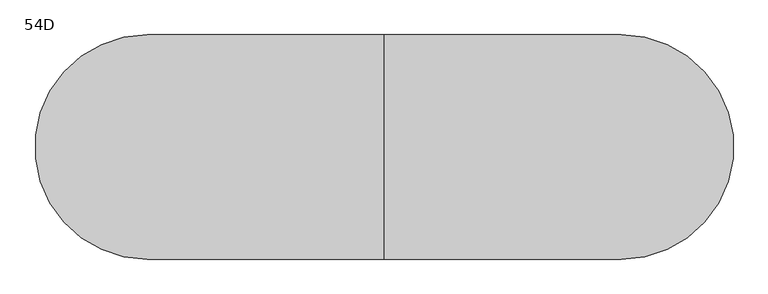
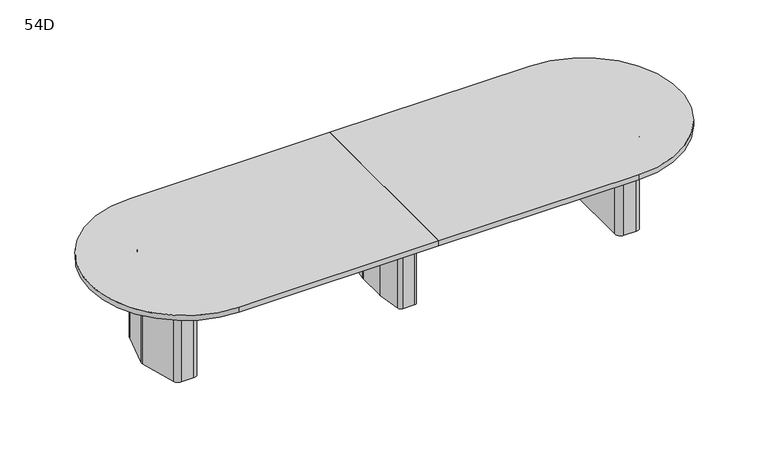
"""IFC4 building model written with IfcOpenShell, lengths in millimetres: furniture geometry, Coalesse_AM_Table_Conference_ETable2_Racetrack_14ft_ThreeBase : 54D."""

from ifc_helpers import new_model, si_unit, point, frame, frame_2d, origin, place, context, project, spatial, polyline, circle_curve, trimmed, segment, composite_curve, outline, extrude, source, transform, mapped, element, save
from ifc_brep_helpers import plane_surface, cylinder_surface, revolved_surface, advanced_brep


def furniture_54d_e3f36c5a(model_context):
    return source(origin(), model_context, "Body", "SolidModel", [
        advanced_brep(
        [(35.71875, 206.375, 3.175), (10.31875, 231.775, 3.175), (-10.31875, 231.775, 3.175), (-35.71875, 206.375, 3.175), (-35.71875, -206.375, 3.175), (-10.31875, -231.775, 3.175), (10.31875, -231.775, 3.175), (35.71875, -206.375, 3.175), (-61.11875, 206.375, 0.0), (-10.31875, 257.175, 0.0), (10.31875, 257.175, 0.0), (61.11875, 206.375, 0.0), (61.11875, -206.375, 0.0), (10.31875, -257.175, 0.0), (-10.31875, -257.175, 0.0), (-61.11875, -206.375, 0.0), (-61.11875, -206.375, 3.175), (-61.11875, 206.375, 3.175), (-10.31875, -257.175, 3.175), (10.31875, -257.175, 3.175), (61.11875, -206.375, 3.175), (61.11875, 206.375, 3.175), (10.31875, 257.175, 3.175), (-10.31875, 257.175, 3.175), (-92.6215974, 106.2976848, 698.5), (-92.86875, 102.7629613, 698.5), (-92.86875, -102.7629613, 698.5), (-92.6215974, -106.2976848, 698.5), (-67.7988375, -282.9347235, 698.5), (-42.6459902, -304.8, 698.5), (42.6459902, -304.8, 698.5), (67.7988375, -282.9347235, 698.5), (92.6215974, -106.2976848, 698.5), (92.86875, -102.7629613, 698.5), (92.86875, 102.7629613, 698.5), (92.6215974, 106.2976848, 698.5), (67.7988375, 282.9347235, 698.5), (42.6459902, 304.8, 698.5), (-42.6459902, 304.8, 698.5), (-67.7988375, 282.9347235, 698.5), (10.31875, 231.775, 698.5), (35.71875, 206.375, 698.5), (35.71875, -206.375, 698.5), (10.31875, -231.775, 698.5), (-10.31875, -231.775, 698.5), (-35.71875, -206.375, 698.5), (-35.71875, 206.375, 698.5), (-10.31875, 231.775, 698.5), (-92.6215974, 106.2976848, 3.175), (-67.7988375, 282.9347235, 3.175), (-42.6459902, 304.8, 3.175), (42.6459902, 304.8, 3.175), (67.7988375, 282.9347235, 3.175), (92.6215974, 106.2976848, 3.175), (92.86875, 102.7629613, 3.175), (92.86875, -102.7629613, 3.175), (92.6215974, -106.2976848, 3.175), (67.7988375, -282.9347235, 3.175), (42.6459902, -304.8, 3.175), (-42.6459902, -304.8, 3.175), (-67.7988375, -282.9347235, 3.175), (-92.6215974, -106.2976848, 3.175), (-92.86875, -102.7629613, 3.175), (-92.86875, 102.7629613, 3.175)],
        [
            (0, 1, circle_curve(frame((10.31875, 206.375, 3.175), z_axis=(0.0, 0.0, 1.0), x_axis=(1.0, 0.0, 0.0)), 25.4)),
            (1, 2),
            (2, 3, circle_curve(frame((-10.31875, 206.375, 3.175), z_axis=(0.0, 0.0, 1.0), x_axis=(1.0, 0.0, 0.0)), 25.4)),
            (3, 4),
            (4, 5, circle_curve(frame((-10.31875, -206.375, 3.175), z_axis=(0.0, 0.0, 1.0), x_axis=(1.0, 0.0, 0.0)), 25.4)),
            (5, 6),
            (6, 7, circle_curve(frame((10.31875, -206.375, 3.175), z_axis=(0.0, 0.0, 1.0), x_axis=(1.0, 0.0, 0.0)), 25.4)),
            (7, 0),
            (8, 9, circle_curve(frame((-10.31875, 206.375, 0.0), z_axis=(0.0, 0.0, -1.0), x_axis=(1.0, 0.0, 0.0)), 50.8)),
            (9, 10),
            (10, 11, circle_curve(frame((10.31875, 206.375, 0.0), z_axis=(0.0, 0.0, -1.0), x_axis=(1.0, 0.0, 0.0)), 50.8)),
            (11, 12),
            (12, 13, circle_curve(frame((10.31875, -206.375, 0.0), z_axis=(0.0, 0.0, -1.0), x_axis=(1.0, 0.0, 0.0)), 50.8)),
            (13, 14),
            (14, 15, circle_curve(frame((-10.31875, -206.375, 0.0), z_axis=(0.0, 0.0, -1.0), x_axis=(1.0, 0.0, 0.0)), 50.8)),
            (15, 8),
            (15, 16),
            (16, 17),
            (17, 8),
            (14, 18),
            (18, 16, circle_curve(frame((-10.31875, -206.375, 3.175), z_axis=(0.0, 0.0, -1.0), x_axis=(1.0, 0.0, 0.0)), 50.8)),
            (13, 19),
            (19, 18),
            (12, 20),
            (20, 19, circle_curve(frame((10.31875, -206.375, 3.175), z_axis=(0.0, 0.0, -1.0), x_axis=(1.0, 0.0, 0.0)), 50.8)),
            (11, 21),
            (21, 20),
            (10, 22),
            (22, 21, circle_curve(frame((10.31875, 206.375, 3.175), z_axis=(0.0, 0.0, -1.0), x_axis=(1.0, 0.0, 0.0)), 50.8)),
            (9, 23),
            (23, 22),
            (17, 23, circle_curve(frame((-10.31875, 206.375, 3.175), z_axis=(0.0, 0.0, -1.0), x_axis=(1.0, 0.0, 0.0)), 50.8)),
            (24, 25, circle_curve(frame((-67.46875, 102.7629613, 698.5), z_axis=(0.0, 0.0, 1.0), x_axis=(1.0, 0.0, 0.0)), 25.4)),
            (25, 26),
            (26, 27, circle_curve(frame((-67.46875, -102.7629613, 698.5), z_axis=(0.0, 0.0, 1.0), x_axis=(1.0, 0.0, 0.0)), 25.4)),
            (27, 28),
            (28, 29, circle_curve(frame((-42.6459902, -279.4, 698.5), z_axis=(0.0, 0.0, 1.0), x_axis=(1.0, 0.0, 0.0)), 25.4)),
            (29, 30),
            (30, 31, circle_curve(frame((42.6459902, -279.4, 698.5), z_axis=(0.0, 0.0, 1.0), x_axis=(1.0, 0.0, 0.0)), 25.4)),
            (31, 32),
            (32, 33, circle_curve(frame((67.46875, -102.7629613, 698.5), z_axis=(0.0, 0.0, 1.0), x_axis=(1.0, 0.0, 0.0)), 25.4)),
            (33, 34),
            (34, 35, circle_curve(frame((67.46875, 102.7629613, 698.5), z_axis=(0.0, 0.0, 1.0), x_axis=(1.0, 0.0, 0.0)), 25.4)),
            (35, 36),
            (36, 37, circle_curve(frame((42.6459902, 279.4, 698.5), z_axis=(0.0, 0.0, 1.0), x_axis=(1.0, 0.0, 0.0)), 25.4)),
            (37, 38),
            (38, 39, circle_curve(frame((-42.6459902, 279.4, 698.5), z_axis=(0.0, 0.0, 1.0), x_axis=(1.0, 0.0, 0.0)), 25.4)),
            (39, 24),
            (40, 41, circle_curve(frame((10.31875, 206.375, 698.5), z_axis=(0.0, 0.0, -1.0), x_axis=(1.0, 0.0, 0.0)), 25.4)),
            (41, 42),
            (42, 43, circle_curve(frame((10.31875, -206.375, 698.5), z_axis=(0.0, 0.0, -1.0), x_axis=(1.0, 0.0, 0.0)), 25.4)),
            (43, 44),
            (44, 45, circle_curve(frame((-10.31875, -206.375, 698.5), z_axis=(0.0, 0.0, -1.0), x_axis=(1.0, 0.0, 0.0)), 25.4)),
            (45, 46),
            (46, 47, circle_curve(frame((-10.31875, 206.375, 698.5), z_axis=(0.0, 0.0, -1.0), x_axis=(1.0, 0.0, 0.0)), 25.4)),
            (47, 40),
            (48, 49),
            (49, 50, circle_curve(frame((-42.6459902, 279.4, 3.175), z_axis=(0.0, 0.0, -1.0), x_axis=(1.0, 0.0, 0.0)), 25.4)),
            (50, 51),
            (51, 52, circle_curve(frame((42.6459902, 279.4, 3.175), z_axis=(0.0, 0.0, -1.0), x_axis=(1.0, 0.0, 0.0)), 25.4)),
            (52, 53),
            (53, 54, circle_curve(frame((67.46875, 102.7629613, 3.175), z_axis=(0.0, 0.0, -1.0), x_axis=(1.0, 0.0, 0.0)), 25.4)),
            (54, 55),
            (55, 56, circle_curve(frame((67.46875, -102.7629613, 3.175), z_axis=(0.0, 0.0, -1.0), x_axis=(1.0, 0.0, 0.0)), 25.4)),
            (56, 57),
            (57, 58, circle_curve(frame((42.6459902, -279.4, 3.175), z_axis=(0.0, 0.0, -1.0), x_axis=(1.0, 0.0, 0.0)), 25.4)),
            (58, 59),
            (59, 60, circle_curve(frame((-42.6459902, -279.4, 3.175), z_axis=(0.0, 0.0, -1.0), x_axis=(1.0, 0.0, 0.0)), 25.4)),
            (60, 61),
            (61, 62, circle_curve(frame((-67.46875, -102.7629613, 3.175), z_axis=(0.0, 0.0, -1.0), x_axis=(1.0, 0.0, 0.0)), 25.4)),
            (62, 63),
            (63, 48, circle_curve(frame((-67.46875, 102.7629613, 3.175), z_axis=(0.0, 0.0, -1.0), x_axis=(1.0, 0.0, 0.0)), 25.4)),
            (24, 48),
            (63, 25),
            (62, 26),
            (61, 27),
            (60, 28),
            (59, 29),
            (58, 30),
            (57, 31),
            (56, 32),
            (55, 33),
            (54, 34),
            (53, 35),
            (52, 36),
            (51, 37),
            (50, 38),
            (49, 39),
            (40, 1),
            (0, 41),
            (7, 42),
            (6, 43),
            (5, 44),
            (4, 45),
            (3, 46),
            (2, 47),
        ],
        [
            plane_surface(frame((-61.11875, -206.375, 3.175), z_axis=(0.0, 0.0, 1.0), x_axis=(0.0, -1.0, 0.0))),
            plane_surface(frame((-61.11875, -206.375, 0.0), z_axis=(0.0, 0.0, -1.0), x_axis=(0.0, 1.0, 0.0))),
            plane_surface(frame((-61.11875, 206.375, 3.175), z_axis=(-1.0, 0.0, 0.0), x_axis=(0.0, 0.0, -1.0))),
            cylinder_surface(frame((-10.31875, -206.375, 0.0), z_axis=(0.0, 0.0, 1.0), x_axis=(1.0, 0.0, 0.0)), 50.8),
            plane_surface(frame((-10.31875, -257.175, 3.175), z_axis=(0.0, -1.0, 0.0), x_axis=(0.0, 0.0, -1.0))),
            cylinder_surface(frame((10.31875, -206.375, 0.0), z_axis=(0.0, 0.0, 1.0), x_axis=(1.0, 0.0, 0.0)), 50.8),
            plane_surface(frame((61.11875, -206.375, 3.175), z_axis=(1.0, 0.0, 0.0), x_axis=(0.0, 0.0, -1.0))),
            cylinder_surface(frame((10.31875, 206.375, 0.0), z_axis=(0.0, 0.0, 1.0), x_axis=(1.0, 0.0, 0.0)), 50.8),
            plane_surface(frame((10.31875, 257.175, 3.175), z_axis=(0.0, 1.0, 0.0), x_axis=(0.0, 0.0, -1.0))),
            cylinder_surface(frame((-10.31875, 206.375, 0.0), z_axis=(0.0, 0.0, 1.0), x_axis=(1.0, 0.0, 0.0)), 50.8),
            plane_surface(frame((-42.06875, 102.7629613, 698.5), z_axis=(0.0, 0.0, 1.0), x_axis=(0.0, 1.0, 0.0))),
            plane_surface(frame((-42.06875, 102.7629613, 3.175), z_axis=(0.0, 0.0, -1.0), x_axis=(0.0, -1.0, 0.0))),
            cylinder_surface(frame((-67.46875, 102.7629613, 3.175), z_axis=(0.0, 0.0, 1.0), x_axis=(1.0, 0.0, 0.0)), 25.4),
            plane_surface(frame((-92.86875, 102.7629613, 698.5), z_axis=(-1.0, 0.0, 0.0), x_axis=(0.0, 0.0, -1.0))),
            cylinder_surface(frame((-67.46875, -102.7629613, 3.175), z_axis=(0.0, 0.0, 1.0), x_axis=(1.0, 0.0, 0.0)), 25.4),
            plane_surface(frame((-92.6215974, -106.2976848, 698.5), z_axis=(-0.9902695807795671, -0.13916234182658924, 0.0), x_axis=(0.0, 0.0, -1.0))),
            cylinder_surface(frame((-42.6459902, -279.4, 3.175), z_axis=(0.0, 0.0, 1.0), x_axis=(1.0, 0.0, 0.0)), 25.4),
            plane_surface(frame((-42.6459902, -304.8, 698.5), z_axis=(0.0, -1.0, 0.0), x_axis=(0.0, 0.0, -1.0))),
            cylinder_surface(frame((42.6459902, -279.4, 3.175), z_axis=(0.0, 0.0, 1.0), x_axis=(1.0, 0.0, 0.0)), 25.4),
            plane_surface(frame((67.7988375, -282.9347235, 698.5), z_axis=(0.9902695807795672, -0.13916234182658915, 0.0), x_axis=(0.0, 0.0, -1.0))),
            cylinder_surface(frame((67.46875, -102.7629613, 3.175), z_axis=(0.0, 0.0, 1.0), x_axis=(1.0, 0.0, 0.0)), 25.4),
            plane_surface(frame((92.86875, -102.7629613, 698.5), z_axis=(1.0, 0.0, 0.0), x_axis=(0.0, 0.0, -1.0))),
            cylinder_surface(frame((67.46875, 102.7629613, 3.175), z_axis=(0.0, 0.0, 1.0), x_axis=(1.0, 0.0, 0.0)), 25.4),
            plane_surface(frame((92.6215974, 106.2976848, 698.5), z_axis=(0.9902695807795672, 0.1391623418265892, 0.0), x_axis=(0.0, 0.0, -1.0))),
            cylinder_surface(frame((42.6459902, 279.4, 3.175), z_axis=(0.0, 0.0, 1.0), x_axis=(1.0, 0.0, 0.0)), 25.4),
            plane_surface(frame((42.6459902, 304.8, 698.5), z_axis=(0.0, 1.0, 0.0), x_axis=(0.0, 0.0, -1.0))),
            cylinder_surface(frame((-42.6459902, 279.4, 3.175), z_axis=(0.0, 0.0, 1.0), x_axis=(1.0, 0.0, 0.0)), 25.4),
            plane_surface(frame((-67.7988375, 282.9347235, 698.5), z_axis=(-0.9902695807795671, 0.13916234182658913, 0.0), x_axis=(0.0, 0.0, -1.0))),
            revolved_surface(polyline([(35.71875, 206.375, 3.175), (35.71875, 206.375, 698.5)]), (10.31875, 206.375, 0.0), (0.0, 0.0, -1.0)),
            plane_surface(frame((35.71875, 206.375, 698.5), z_axis=(-1.0, 0.0, 0.0), x_axis=(0.0, 0.0, -1.0))),
            revolved_surface(polyline([(35.71875, -206.375, 3.175), (35.71875, -206.375, 698.5)]), (10.31875, -206.375, 0.0), (0.0, 0.0, -1.0)),
            plane_surface(frame((10.31875, -231.775, 698.5), z_axis=(0.0, 1.0, 0.0), x_axis=(0.0, 0.0, -1.0))),
            revolved_surface(polyline([(15.081249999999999, -206.375, 3.175), (15.081249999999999, -206.375, 698.5)]), (-10.31875, -206.375, 0.0), (0.0, 0.0, -1.0)),
            plane_surface(frame((-35.71875, -206.375, 698.5), z_axis=(1.0, 0.0, 0.0), x_axis=(0.0, 0.0, -1.0))),
            revolved_surface(polyline([(15.081249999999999, 206.375, 3.175), (15.081249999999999, 206.375, 698.5)]), (-10.31875, 206.375, 0.0), (0.0, 0.0, -1.0)),
            plane_surface(frame((-10.31875, 231.775, 698.5), z_axis=(0.0, -1.0, 0.0), x_axis=(0.0, 0.0, -1.0))),
        ],
        [
            (0, [[1, 2, 3, 4, 5, 6, 7, 8]]),
            (1, [[9, 10, 11, 12, 13, 14, 15, 16]]),
            (2, [[-16, 17, 18, 19]]),
            (3, [[-15, 20, 21, -17]]),
            (4, [[-14, 22, 23, -20]]),
            (5, [[-13, 24, 25, -22]]),
            (6, [[-12, 26, 27, -24]]),
            (7, [[-11, 28, 29, -26]]),
            (8, [[-10, 30, 31, -28]]),
            (9, [[-9, -19, 32, -30]]),
            (10, [[33, 34, 35, 36, 37, 38, 39, 40, 41, 42, 43, 44, 45, 46, 47, 48], [49, 50, 51, 52, 53, 54, 55, 56]]),
            (11, [[57, 58, 59, 60, 61, 62, 63, 64, 65, 66, 67, 68, 69, 70, 71, 72], [-18, -21, -23, -25, -27, -29, -31, -32]]),
            (12, [[-33, 73, -72, 74]]),
            (13, [[-34, -74, -71, 75]]),
            (14, [[-35, -75, -70, 76]]),
            (15, [[-36, -76, -69, 77]]),
            (16, [[-37, -77, -68, 78]]),
            (17, [[-38, -78, -67, 79]]),
            (18, [[-39, -79, -66, 80]]),
            (19, [[-40, -80, -65, 81]]),
            (20, [[-41, -81, -64, 82]]),
            (21, [[-42, -82, -63, 83]]),
            (22, [[-43, -83, -62, 84]]),
            (23, [[-44, -84, -61, 85]]),
            (24, [[-45, -85, -60, 86]]),
            (25, [[-46, -86, -59, 87]]),
            (26, [[-47, -87, -58, 88]]),
            (27, [[-48, -88, -57, -73]]),
            (28, [[-49, 89, -1, 90]]),
            (29, [[-50, -90, -8, 91]]),
            (30, [[-51, -91, -7, 92]]),
            (31, [[-52, -92, -6, 93]]),
            (32, [[-53, -93, -5, 94]]),
            (33, [[-54, -94, -4, 95]]),
            (34, [[-55, -95, -3, 96]]),
            (35, [[-56, -96, -2, -89]]),
        ],
    ),
        advanced_brep(
        [(1687.724548, 274.2093613, 698.5), (1647.8579246, 304.8, 698.5), (1558.925, 304.8, 698.5), (1517.65, 263.525, 698.5), (1517.65, -263.525, 698.5), (1558.925, -304.8, 698.5), (1647.8579246, -304.8, 698.5), (1687.724548, -274.2093613, 698.5), (1758.3503901, -10.6333708, 698.5), (1758.3503901, 10.6333708, 698.5), (1555.75, -206.375, 698.5), (1555.75, 206.375, 698.5), (1581.15, 231.775, 698.5), (1640.1608422, 231.775, 698.5), (1664.695338, 212.9490792, 698.5), (1703.3875, 68.54974, 698.5), (1703.3875, -68.54974, 698.5), (1664.695338, -212.9490792, 698.5), (1640.1608422, -231.775, 698.5), (1581.15, -231.775, 698.5), (1687.724548, 274.2093613, 3.175), (1758.3503901, 10.6333708, 3.175), (1758.3503901, -10.6333708, 3.175), (1687.724548, -274.2093613, 3.175), (1647.8579246, -304.8, 3.175), (1558.925, -304.8, 3.175), (1517.65, -263.525, 3.175), (1517.65, 263.525, 3.175), (1558.925, 304.8, 3.175), (1647.8579246, 304.8, 3.175), (1676.9625859, 216.2361187, 3.175), (1640.1608422, 244.475, 3.175), (1581.15, 244.475, 3.175), (1543.05, 206.375, 3.175), (1543.05, -206.375, 3.175), (1581.15, -244.475, 3.175), (1640.1608422, -244.475, 3.175), (1676.9625859, -216.2361187, 3.175), (1716.0875, -70.2217466, 3.175), (1716.0875, 70.2217466, 3.175), (1581.15, -231.775, 3.175), (1555.75, -206.375, 3.175), (1640.1608422, -231.775, 3.175), (1664.695338, -212.9490792, 3.175), (1703.3875, -68.54974, 3.175), (1703.3875, 68.54974, 3.175), (1664.695338, 212.9490792, 3.175), (1640.1608422, 231.775, 3.175), (1581.15, 231.775, 3.175), (1555.75, 206.375, 3.175), (1676.9625859, 216.2361187, 0.0), (1716.0875, 70.2217466, 0.0), (1716.0875, -70.2217466, 0.0), (1676.9625859, -216.2361187, 0.0), (1640.1608422, -244.475, 0.0), (1581.15, -244.475, 0.0), (1543.05, -206.375, 0.0), (1543.05, 206.375, 0.0), (1581.15, 244.475, 0.0), (1640.1608422, 244.475, 0.0)],
        [
            (0, 1, circle_curve(frame((1647.8579246, 263.5270004, 698.5), z_axis=(0.0, 0.0, 1.0), x_axis=(-1.0, 0.0, 0.0)), 41.2729996)),
            (1, 2),
            (2, 3, circle_curve(frame((1558.925, 263.525, 698.5), z_axis=(0.0, 0.0, 1.0), x_axis=(-1.0, 0.0, 0.0)), 41.275)),
            (3, 4),
            (4, 5, circle_curve(frame((1558.925, -263.525, 698.5), z_axis=(0.0, 0.0, 1.0), x_axis=(-1.0, 0.0, 0.0)), 41.275)),
            (5, 6),
            (6, 7, circle_curve(frame((1647.8579246, -263.5270004, 698.5), z_axis=(0.0, 0.0, 1.0), x_axis=(-1.0, 0.0, 0.0)), 41.2729996)),
            (7, 8),
            (8, 9, circle_curve(frame((1718.6665979, 0.0, 698.5), z_axis=(0.0, 0.0, 1.0), x_axis=(-1.0, 0.0, 0.0)), 41.0837187)),
            (9, 0),
            (10, 11),
            (11, 12, circle_curve(frame((1581.15, 206.375, 698.5), z_axis=(0.0, 0.0, -1.0), x_axis=(-1.0, 0.0, 0.0)), 25.4)),
            (12, 13),
            (13, 14, circle_curve(frame((1640.1608422, 206.375, 698.5), z_axis=(0.0, 0.0, -1.0), x_axis=(-1.0, 0.0, 0.0)), 25.4)),
            (14, 15),
            (15, 16),
            (16, 17),
            (17, 18, circle_curve(frame((1640.1608422, -206.375, 698.5), z_axis=(0.0, 0.0, -1.0), x_axis=(-1.0, 0.0, 0.0)), 25.4)),
            (18, 19),
            (19, 10, circle_curve(frame((1581.15, -206.375, 698.5), z_axis=(0.0, 0.0, -1.0), x_axis=(-1.0, 0.0, 0.0)), 25.4)),
            (20, 21),
            (21, 22, circle_curve(frame((1718.6665979, 0.0, 3.175), z_axis=(0.0, 0.0, -1.0), x_axis=(-1.0, 0.0, 0.0)), 41.0837187)),
            (22, 23),
            (23, 24, circle_curve(frame((1647.8579246, -263.5270004, 3.175), z_axis=(0.0, 0.0, -1.0), x_axis=(-1.0, 0.0, 0.0)), 41.2729996)),
            (24, 25),
            (25, 26, circle_curve(frame((1558.925, -263.525, 3.175), z_axis=(0.0, 0.0, -1.0), x_axis=(-1.0, 0.0, 0.0)), 41.275)),
            (26, 27),
            (27, 28, circle_curve(frame((1558.925, 263.525, 3.175), z_axis=(0.0, 0.0, -1.0), x_axis=(-1.0, 0.0, 0.0)), 41.275)),
            (28, 29),
            (29, 20, circle_curve(frame((1647.8579246, 263.5270004, 3.175), z_axis=(0.0, 0.0, -1.0), x_axis=(-1.0, 0.0, 0.0)), 41.2729996)),
            (30, 31, circle_curve(frame((1640.1608422, 206.375, 3.175), z_axis=(0.0, 0.0, 1.0), x_axis=(-1.0, 0.0, 0.0)), 38.1)),
            (31, 32),
            (32, 33, circle_curve(frame((1581.15, 206.375, 3.175), z_axis=(0.0, 0.0, 1.0), x_axis=(-1.0, 0.0, 0.0)), 38.1)),
            (33, 34),
            (34, 35, circle_curve(frame((1581.15, -206.375, 3.175), z_axis=(0.0, 0.0, 1.0), x_axis=(-1.0, 0.0, 0.0)), 38.1)),
            (35, 36),
            (36, 37, circle_curve(frame((1640.1608422, -206.375, 3.175), z_axis=(0.0, 0.0, 1.0), x_axis=(-1.0, 0.0, 0.0)), 38.1)),
            (37, 38),
            (38, 39),
            (39, 30),
            (9, 21),
            (20, 0),
            (8, 22),
            (7, 23),
            (6, 24),
            (5, 25),
            (4, 26),
            (3, 27),
            (2, 28),
            (1, 29),
            (19, 40),
            (40, 41, circle_curve(frame((1581.15, -206.375, 3.175), z_axis=(0.0, 0.0, -1.0), x_axis=(-1.0, 0.0, 0.0)), 25.4)),
            (41, 10),
            (18, 42),
            (42, 40),
            (17, 43),
            (43, 42, circle_curve(frame((1640.1608422, -206.375, 3.175), z_axis=(0.0, 0.0, -1.0), x_axis=(-1.0, 0.0, 0.0)), 25.4)),
            (16, 44),
            (44, 43),
            (15, 45),
            (45, 44),
            (14, 46),
            (46, 45),
            (13, 47),
            (47, 46, circle_curve(frame((1640.1608422, 206.375, 3.175), z_axis=(0.0, 0.0, -1.0), x_axis=(-1.0, 0.0, 0.0)), 25.4)),
            (12, 48),
            (48, 47),
            (11, 49),
            (49, 48, circle_curve(frame((1581.15, 206.375, 3.175), z_axis=(0.0, 0.0, -1.0), x_axis=(-1.0, 0.0, 0.0)), 25.4)),
            (41, 49),
            (50, 51),
            (51, 52),
            (52, 53),
            (53, 54, circle_curve(frame((1640.1608422, -206.375, 0.0), z_axis=(0.0, 0.0, -1.0), x_axis=(-1.0, 0.0, 0.0)), 38.1)),
            (54, 55),
            (55, 56, circle_curve(frame((1581.15, -206.375, 0.0), z_axis=(0.0, 0.0, -1.0), x_axis=(-1.0, 0.0, 0.0)), 38.1)),
            (56, 57),
            (57, 58, circle_curve(frame((1581.15, 206.375, 0.0), z_axis=(0.0, 0.0, -1.0), x_axis=(-1.0, 0.0, 0.0)), 38.1)),
            (58, 59),
            (59, 50, circle_curve(frame((1640.1608422, 206.375, 0.0), z_axis=(0.0, 0.0, -1.0), x_axis=(-1.0, 0.0, 0.0)), 38.1)),
            (50, 30),
            (39, 51),
            (38, 52),
            (37, 53),
            (36, 54),
            (35, 55),
            (34, 56),
            (33, 57),
            (32, 58),
            (31, 59),
        ],
        [
            plane_surface(frame((1758.3374275, 10.6817473, 698.5), z_axis=(0.0, 0.0, 1.0000000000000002), x_axis=(0.25882201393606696, -0.9659250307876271, 0.0))),
            plane_surface(frame((1758.3374275, 10.6817473, 3.175), z_axis=(0.0, 0.0, -1.0000000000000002), x_axis=(-0.25882201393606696, 0.9659250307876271, 0.0))),
            plane_surface(frame((1687.724548, 274.2093613, 698.5), z_axis=(0.9659250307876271, 0.25882201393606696, 0.0), x_axis=(0.0, 0.0, -1.0))),
            cylinder_surface(frame((1718.6665979, 0.0, 3.175), z_axis=(0.0, 0.0, 1.0), x_axis=(-1.0, 0.0, 0.0)), 41.0837187),
            plane_surface(frame((1758.3503901, -10.6333708, 698.5), z_axis=(0.9659250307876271, -0.2588220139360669, 0.0), x_axis=(0.0, 0.0, -1.0))),
            cylinder_surface(frame((1647.8579246, -263.5270004, 3.175), z_axis=(0.0, 0.0, 1.0), x_axis=(-1.0, 0.0, 0.0)), 41.2729996),
            plane_surface(frame((1647.8579246, -304.8, 698.5), z_axis=(0.0, -1.0, 0.0), x_axis=(0.0, 0.0, -1.0))),
            cylinder_surface(frame((1558.925, -263.525, 3.175), z_axis=(0.0, 0.0, 1.0), x_axis=(-1.0, 0.0, 0.0)), 41.275),
            plane_surface(frame((1517.65, -263.525, 698.5), z_axis=(-1.0, 0.0, 0.0), x_axis=(0.0, 0.0, -1.0))),
            cylinder_surface(frame((1558.925, 263.525, 3.175), z_axis=(0.0, 0.0, 1.0), x_axis=(-1.0, 0.0, 0.0)), 41.275),
            plane_surface(frame((1558.925, 304.8, 698.5), z_axis=(0.0, 1.0, 0.0), x_axis=(0.0, 0.0, -1.0))),
            cylinder_surface(frame((1647.8579246, 263.5270004, 3.175), z_axis=(0.0, 0.0, 1.0), x_axis=(-1.0, 0.0, 0.0)), 41.2729996),
            revolved_surface(polyline([(1555.75, -206.375, 3.175), (1555.75, -206.375, 698.5)]), (1581.15, -206.375, 0.0), (0.0, 0.0, -1.0)),
            plane_surface(frame((1581.15, -231.775, 698.5), z_axis=(0.0, 1.0, 0.0), x_axis=(0.0, 0.0, -1.0))),
            revolved_surface(polyline([(1614.7608421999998, -206.375, 3.175), (1614.7608421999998, -206.375, 698.5)]), (1640.1608422, -206.375, 0.0), (0.0, 0.0, -1.0)),
            plane_surface(frame((1664.695338, -212.9490792, 698.5), z_axis=(-0.9659250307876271, 0.2588220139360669, 0.0), x_axis=(0.0, 0.0, -1.0))),
            plane_surface(frame((1703.3875, -68.54974, 698.5), z_axis=(-1.0, 0.0, 0.0), x_axis=(0.0, 0.0, -1.0))),
            plane_surface(frame((1703.3875, 68.54974, 698.5), z_axis=(-0.9659250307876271, -0.25882201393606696, 0.0), x_axis=(0.0, 0.0, -1.0))),
            revolved_surface(polyline([(1614.7608421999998, 206.375, 3.175), (1614.7608421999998, 206.375, 698.5)]), (1640.1608422, 206.375, 0.0), (0.0, 0.0, -1.0)),
            plane_surface(frame((1640.1608422, 231.775, 698.5), z_axis=(0.0, -1.0, 0.0), x_axis=(0.0, 0.0, -1.0))),
            revolved_surface(polyline([(1555.75, 206.375, 3.175), (1555.75, 206.375, 698.5)]), (1581.15, 206.375, 0.0), (0.0, 0.0, -1.0)),
            plane_surface(frame((1555.75, 206.375, 698.5), z_axis=(1.0, 0.0, 0.0), x_axis=(0.0, 0.0, -1.0))),
            plane_surface(frame((1715.6547479, 71.8367796, 3.175), z_axis=(0.0, 0.0, 1.0), x_axis=(0.25882201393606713, -0.965925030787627, 0.0))),
            plane_surface(frame((1715.6547479, 71.8367796, 0.0), z_axis=(0.0, 0.0, -1.0), x_axis=(-0.25882201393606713, 0.965925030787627, 0.0))),
            plane_surface(frame((1676.9625859, 216.2361187, 3.175), z_axis=(0.965925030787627, 0.25882201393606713, 0.0), x_axis=(0.0, 0.0, -1.0))),
            plane_surface(frame((1716.0875, 70.2217466, 3.175), z_axis=(1.0, 0.0, 0.0), x_axis=(0.0, 0.0, -1.0))),
            plane_surface(frame((1716.0875, -70.2217466, 3.175), z_axis=(0.9659250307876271, -0.2588220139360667, 0.0), x_axis=(0.0, 0.0, -1.0))),
            cylinder_surface(frame((1640.1608422, -206.375, 0.0), z_axis=(0.0, 0.0, 1.0), x_axis=(-1.0, 0.0, 0.0)), 38.1),
            plane_surface(frame((1640.1608422, -244.475, 3.175), z_axis=(0.0, -1.0, 0.0), x_axis=(0.0, 0.0, -1.0))),
            cylinder_surface(frame((1581.15, -206.375, 0.0), z_axis=(0.0, 0.0, 1.0), x_axis=(-1.0, 0.0, 0.0)), 38.1),
            plane_surface(frame((1543.05, -206.375, 3.175), z_axis=(-1.0, 0.0, 0.0), x_axis=(0.0, 0.0, -1.0))),
            cylinder_surface(frame((1581.15, 206.375, 0.0), z_axis=(0.0, 0.0, 1.0), x_axis=(-1.0, 0.0, 0.0)), 38.1),
            plane_surface(frame((1581.15, 244.475, 3.175), z_axis=(0.0, 1.0, 0.0), x_axis=(0.0, 0.0, -1.0))),
            cylinder_surface(frame((1640.1608422, 206.375, 0.0), z_axis=(0.0, 0.0, 1.0), x_axis=(-1.0, 0.0, 0.0)), 38.1),
        ],
        [
            (0, [[1, 2, 3, 4, 5, 6, 7, 8, 9, 10], [11, 12, 13, 14, 15, 16, 17, 18, 19, 20]]),
            (1, [[21, 22, 23, 24, 25, 26, 27, 28, 29, 30], [31, 32, 33, 34, 35, 36, 37, 38, 39, 40]]),
            (2, [[41, -21, 42, -10]]),
            (3, [[43, -22, -41, -9]]),
            (4, [[44, -23, -43, -8]]),
            (5, [[45, -24, -44, -7]]),
            (6, [[46, -25, -45, -6]]),
            (7, [[47, -26, -46, -5]]),
            (8, [[48, -27, -47, -4]]),
            (9, [[49, -28, -48, -3]]),
            (10, [[50, -29, -49, -2]]),
            (11, [[-42, -30, -50, -1]]),
            (12, [[51, 52, 53, -20]]),
            (13, [[54, 55, -51, -19]]),
            (14, [[56, 57, -54, -18]]),
            (15, [[58, 59, -56, -17]]),
            (16, [[60, 61, -58, -16]]),
            (17, [[62, 63, -60, -15]]),
            (18, [[64, 65, -62, -14]]),
            (19, [[66, 67, -64, -13]]),
            (20, [[68, 69, -66, -12]]),
            (21, [[-53, 70, -68, -11]]),
            (22, [[-55, -57, -59, -61, -63, -65, -67, -69, -70, -52]]),
            (23, [[71, 72, 73, 74, 75, 76, 77, 78, 79, 80]]),
            (24, [[81, -40, 82, -71]]),
            (25, [[-82, -39, 83, -72]]),
            (26, [[-83, -38, 84, -73]]),
            (27, [[-84, -37, 85, -74]]),
            (28, [[-85, -36, 86, -75]]),
            (29, [[-86, -35, 87, -76]]),
            (30, [[-87, -34, 88, -77]]),
            (31, [[-88, -33, 89, -78]]),
            (32, [[-89, -32, 90, -79]]),
            (33, [[-90, -31, -81, -80]]),
        ],
    ),
        advanced_brep(
        [(-1686.137048, 274.2093613, 698.5), (-1756.7628901, 10.6333708, 698.5), (-1756.7628901, -10.6333708, 698.5), (-1686.137048, -274.2093613, 698.5), (-1646.2704246, -304.8, 698.5), (-1557.3375, -304.8, 698.5), (-1516.0625, -263.525, 698.5), (-1516.0625, 263.525, 698.5), (-1557.3375, 304.8, 698.5), (-1646.2704246, 304.8, 698.5), (-1554.1625, -206.375, 698.5), (-1579.5625, -231.775, 698.5), (-1638.5733422, -231.775, 698.5), (-1663.107838, -212.9490792, 698.5), (-1701.8, -68.54974, 698.5), (-1701.8, 68.54974, 698.5), (-1663.107838, 212.9490792, 698.5), (-1638.5733422, 231.775, 698.5), (-1579.5625, 231.775, 698.5), (-1554.1625, 206.375, 698.5), (-1686.137048, 274.2093613, 3.175), (-1646.2704246, 304.8, 3.175), (-1557.3375, 304.8, 3.175), (-1516.0625, 263.525, 3.175), (-1516.0625, -263.525, 3.175), (-1557.3375, -304.8, 3.175), (-1646.2704246, -304.8, 3.175), (-1686.137048, -274.2093613, 3.175), (-1756.7628901, -10.6333708, 3.175), (-1756.7628901, 10.6333708, 3.175), (-1675.3750859, 216.2361187, 3.175), (-1714.5, 70.2217466, 3.175), (-1714.5, -70.2217466, 3.175), (-1675.3750859, -216.2361187, 3.175), (-1638.5733422, -244.475, 3.175), (-1579.5625, -244.475, 3.175), (-1541.4625, -206.375, 3.175), (-1541.4625, 206.375, 3.175), (-1579.5625, 244.475, 3.175), (-1638.5733422, 244.475, 3.175), (-1554.1625, -206.375, 3.175), (-1579.5625, -231.775, 3.175), (-1638.5733422, -231.775, 3.175), (-1663.107838, -212.9490792, 3.175), (-1701.8, -68.54974, 3.175), (-1701.8, 68.54974, 3.175), (-1663.107838, 212.9490792, 3.175), (-1638.5733422, 231.775, 3.175), (-1579.5625, 231.775, 3.175), (-1554.1625, 206.375, 3.175), (-1675.3750859, 216.2361187, 0.0), (-1638.5733422, 244.475, 0.0), (-1579.5625, 244.475, 0.0), (-1541.4625, 206.375, 0.0), (-1541.4625, -206.375, 0.0), (-1579.5625, -244.475, 0.0), (-1638.5733422, -244.475, 0.0), (-1675.3750859, -216.2361187, 0.0), (-1714.5, -70.2217466, 0.0), (-1714.5, 70.2217466, 0.0)],
        [
            (0, 1),
            (1, 2, circle_curve(frame((-1717.0790979, 0.0, 698.5), z_axis=(0.0, 0.0, 1.0), x_axis=(1.0, 0.0, 0.0)), 41.0837187)),
            (2, 3),
            (3, 4, circle_curve(frame((-1646.2704246, -263.5270004, 698.5), z_axis=(0.0, 0.0, 1.0), x_axis=(1.0, 0.0, 0.0)), 41.2729996)),
            (4, 5),
            (5, 6, circle_curve(frame((-1557.3375, -263.525, 698.5), z_axis=(0.0, 0.0, 1.0), x_axis=(1.0, 0.0, 0.0)), 41.275)),
            (6, 7),
            (7, 8, circle_curve(frame((-1557.3375, 263.525, 698.5), z_axis=(0.0, 0.0, 1.0), x_axis=(1.0, 0.0, 0.0)), 41.275)),
            (8, 9),
            (9, 0, circle_curve(frame((-1646.2704246, 263.5270004, 698.5), z_axis=(0.0, 0.0, 1.0), x_axis=(1.0, 0.0, 0.0)), 41.2729996)),
            (10, 11, circle_curve(frame((-1579.5625, -206.375, 698.5), z_axis=(0.0, 0.0, -1.0), x_axis=(1.0, 0.0, 0.0)), 25.4)),
            (11, 12),
            (12, 13, circle_curve(frame((-1638.5733422, -206.375, 698.5), z_axis=(0.0, 0.0, -1.0), x_axis=(1.0, 0.0, 0.0)), 25.4)),
            (13, 14),
            (14, 15),
            (15, 16),
            (16, 17, circle_curve(frame((-1638.5733422, 206.375, 698.5), z_axis=(0.0, 0.0, -1.0), x_axis=(1.0, 0.0, 0.0)), 25.4)),
            (17, 18),
            (18, 19, circle_curve(frame((-1579.5625, 206.375, 698.5), z_axis=(0.0, 0.0, -1.0), x_axis=(1.0, 0.0, 0.0)), 25.4)),
            (19, 10),
            (20, 21, circle_curve(frame((-1646.2704246, 263.5270004, 3.175), z_axis=(0.0, 0.0, -1.0), x_axis=(1.0, 0.0, 0.0)), 41.2729996)),
            (21, 22),
            (22, 23, circle_curve(frame((-1557.3375, 263.525, 3.175), z_axis=(0.0, 0.0, -1.0), x_axis=(1.0, 0.0, 0.0)), 41.275)),
            (23, 24),
            (24, 25, circle_curve(frame((-1557.3375, -263.525, 3.175), z_axis=(0.0, 0.0, -1.0), x_axis=(1.0, 0.0, 0.0)), 41.275)),
            (25, 26),
            (26, 27, circle_curve(frame((-1646.2704246, -263.5270004, 3.175), z_axis=(0.0, 0.0, -1.0), x_axis=(1.0, 0.0, 0.0)), 41.2729996)),
            (27, 28),
            (28, 29, circle_curve(frame((-1717.0790979, 0.0, 3.175), z_axis=(0.0, 0.0, -1.0), x_axis=(1.0, 0.0, 0.0)), 41.0837187)),
            (29, 20),
            (30, 31),
            (31, 32),
            (32, 33),
            (33, 34, circle_curve(frame((-1638.5733422, -206.375, 3.175), z_axis=(0.0, 0.0, 1.0), x_axis=(1.0, 0.0, 0.0)), 38.1)),
            (34, 35),
            (35, 36, circle_curve(frame((-1579.5625, -206.375, 3.175), z_axis=(0.0, 0.0, 1.0), x_axis=(1.0, 0.0, 0.0)), 38.1)),
            (36, 37),
            (37, 38, circle_curve(frame((-1579.5625, 206.375, 3.175), z_axis=(0.0, 0.0, 1.0), x_axis=(1.0, 0.0, 0.0)), 38.1)),
            (38, 39),
            (39, 30, circle_curve(frame((-1638.5733422, 206.375, 3.175), z_axis=(0.0, 0.0, 1.0), x_axis=(1.0, 0.0, 0.0)), 38.1)),
            (0, 20),
            (29, 1),
            (28, 2),
            (27, 3),
            (26, 4),
            (25, 5),
            (24, 6),
            (23, 7),
            (22, 8),
            (21, 9),
            (10, 40),
            (40, 41, circle_curve(frame((-1579.5625, -206.375, 3.175), z_axis=(0.0, 0.0, -1.0), x_axis=(1.0, 0.0, 0.0)), 25.4)),
            (41, 11),
            (41, 42),
            (42, 12),
            (42, 43, circle_curve(frame((-1638.5733422, -206.375, 3.175), z_axis=(0.0, 0.0, -1.0), x_axis=(1.0, 0.0, 0.0)), 25.4)),
            (43, 13),
            (43, 44),
            (44, 14),
            (44, 45),
            (45, 15),
            (45, 46),
            (46, 16),
            (46, 47, circle_curve(frame((-1638.5733422, 206.375, 3.175), z_axis=(0.0, 0.0, -1.0), x_axis=(1.0, 0.0, 0.0)), 25.4)),
            (47, 17),
            (47, 48),
            (48, 18),
            (48, 49, circle_curve(frame((-1579.5625, 206.375, 3.175), z_axis=(0.0, 0.0, -1.0), x_axis=(1.0, 0.0, 0.0)), 25.4)),
            (49, 19),
            (49, 40),
            (50, 51, circle_curve(frame((-1638.5733422, 206.375, 0.0), z_axis=(0.0, 0.0, -1.0), x_axis=(1.0, 0.0, 0.0)), 38.1)),
            (51, 52),
            (52, 53, circle_curve(frame((-1579.5625, 206.375, 0.0), z_axis=(0.0, 0.0, -1.0), x_axis=(1.0, 0.0, 0.0)), 38.1)),
            (53, 54),
            (54, 55, circle_curve(frame((-1579.5625, -206.375, 0.0), z_axis=(0.0, 0.0, -1.0), x_axis=(1.0, 0.0, 0.0)), 38.1)),
            (55, 56),
            (56, 57, circle_curve(frame((-1638.5733422, -206.375, 0.0), z_axis=(0.0, 0.0, -1.0), x_axis=(1.0, 0.0, 0.0)), 38.1)),
            (57, 58),
            (58, 59),
            (59, 50),
            (59, 31),
            (30, 50),
            (58, 32),
            (57, 33),
            (56, 34),
            (55, 35),
            (54, 36),
            (53, 37),
            (52, 38),
            (51, 39),
        ],
        [
            plane_surface(frame((-1756.7499275, 10.6817473, 698.5), z_axis=(0.0, 0.0, 1.0000000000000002), x_axis=(-0.25882201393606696, -0.9659250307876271, 0.0))),
            plane_surface(frame((-1756.7499275, 10.6817473, 3.175), z_axis=(0.0, 0.0, -1.0000000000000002), x_axis=(0.25882201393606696, 0.9659250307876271, 0.0))),
            plane_surface(frame((-1686.137048, 274.2093613, 698.5), z_axis=(-0.9659250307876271, 0.25882201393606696, 0.0), x_axis=(0.0, 0.0, -1.0))),
            cylinder_surface(frame((-1717.0790979, 0.0, 3.175), z_axis=(0.0, 0.0, 1.0), x_axis=(1.0, 0.0, 0.0)), 41.0837187),
            plane_surface(frame((-1756.7628901, -10.6333708, 698.5), z_axis=(-0.9659250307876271, -0.2588220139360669, 0.0), x_axis=(0.0, 0.0, -1.0))),
            cylinder_surface(frame((-1646.2704246, -263.5270004, 3.175), z_axis=(0.0, 0.0, 1.0), x_axis=(1.0, 0.0, 0.0)), 41.2729996),
            plane_surface(frame((-1646.2704246, -304.8, 698.5), z_axis=(0.0, -1.0, 0.0), x_axis=(0.0, 0.0, -1.0))),
            cylinder_surface(frame((-1557.3375, -263.525, 3.175), z_axis=(0.0, 0.0, 1.0), x_axis=(1.0, 0.0, 0.0)), 41.275),
            plane_surface(frame((-1516.0625, -263.525, 698.5), z_axis=(1.0, 0.0, 0.0), x_axis=(0.0, 0.0, -1.0))),
            cylinder_surface(frame((-1557.3375, 263.525, 3.175), z_axis=(0.0, 0.0, 1.0), x_axis=(1.0, 0.0, 0.0)), 41.275),
            plane_surface(frame((-1557.3375, 304.8, 698.5), z_axis=(0.0, 1.0, 0.0), x_axis=(0.0, 0.0, -1.0))),
            cylinder_surface(frame((-1646.2704246, 263.5270004, 3.175), z_axis=(0.0, 0.0, 1.0), x_axis=(1.0, 0.0, 0.0)), 41.2729996),
            revolved_surface(polyline([(-1554.1625, -206.375, 3.175), (-1554.1625, -206.375, 698.5)]), (-1579.5625, -206.375, 0.0), (0.0, 0.0, -1.0)),
            plane_surface(frame((-1579.5625, -231.775, 698.5), z_axis=(0.0, 1.0, 0.0), x_axis=(0.0, 0.0, -1.0))),
            revolved_surface(polyline([(-1613.1733422, -206.375, 3.175), (-1613.1733422, -206.375, 698.5)]), (-1638.5733422, -206.375, 0.0), (0.0, 0.0, -1.0)),
            plane_surface(frame((-1663.107838, -212.9490792, 698.5), z_axis=(0.9659250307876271, 0.2588220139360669, 0.0), x_axis=(0.0, 0.0, -1.0))),
            plane_surface(frame((-1701.8, -68.54974, 698.5), z_axis=(1.0, 0.0, 0.0), x_axis=(0.0, 0.0, -1.0))),
            plane_surface(frame((-1701.8, 68.54974, 698.5), z_axis=(0.9659250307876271, -0.25882201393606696, 0.0), x_axis=(0.0, 0.0, -1.0))),
            revolved_surface(polyline([(-1613.1733422, 206.375, 3.175), (-1613.1733422, 206.375, 698.5)]), (-1638.5733422, 206.375, 0.0), (0.0, 0.0, -1.0)),
            plane_surface(frame((-1638.5733422, 231.775, 698.5), z_axis=(0.0, -1.0, 0.0), x_axis=(0.0, 0.0, -1.0))),
            revolved_surface(polyline([(-1554.1625, 206.375, 3.175), (-1554.1625, 206.375, 698.5)]), (-1579.5625, 206.375, 0.0), (0.0, 0.0, -1.0)),
            plane_surface(frame((-1554.1625, 206.375, 698.5), z_axis=(-1.0, 0.0, 0.0), x_axis=(0.0, 0.0, -1.0))),
            plane_surface(frame((-1714.0672479, 71.8367796, 3.175), z_axis=(0.0, 0.0, 1.0), x_axis=(-0.25882201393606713, -0.965925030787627, 0.0))),
            plane_surface(frame((-1714.0672479, 71.8367796, 0.0), z_axis=(0.0, 0.0, -1.0), x_axis=(0.25882201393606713, 0.965925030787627, 0.0))),
            plane_surface(frame((-1675.3750859, 216.2361187, 3.175), z_axis=(-0.965925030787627, 0.25882201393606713, 0.0), x_axis=(0.0, 0.0, -1.0))),
            plane_surface(frame((-1714.5, 70.2217466, 3.175), z_axis=(-1.0, 0.0, 0.0), x_axis=(0.0, 0.0, -1.0))),
            plane_surface(frame((-1714.5, -70.2217466, 3.175), z_axis=(-0.9659250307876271, -0.2588220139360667, 0.0), x_axis=(0.0, 0.0, -1.0))),
            cylinder_surface(frame((-1638.5733422, -206.375, 0.0), z_axis=(0.0, 0.0, 1.0), x_axis=(1.0, 0.0, 0.0)), 38.1),
            plane_surface(frame((-1638.5733422, -244.475, 3.175), z_axis=(0.0, -1.0, 0.0), x_axis=(0.0, 0.0, -1.0))),
            cylinder_surface(frame((-1579.5625, -206.375, 0.0), z_axis=(0.0, 0.0, 1.0), x_axis=(1.0, 0.0, 0.0)), 38.1),
            plane_surface(frame((-1541.4625, -206.375, 3.175), z_axis=(1.0, 0.0, 0.0), x_axis=(0.0, 0.0, -1.0))),
            cylinder_surface(frame((-1579.5625, 206.375, 0.0), z_axis=(0.0, 0.0, 1.0), x_axis=(1.0, 0.0, 0.0)), 38.1),
            plane_surface(frame((-1579.5625, 244.475, 3.175), z_axis=(0.0, 1.0, 0.0), x_axis=(0.0, 0.0, -1.0))),
            cylinder_surface(frame((-1638.5733422, 206.375, 0.0), z_axis=(0.0, 0.0, 1.0), x_axis=(1.0, 0.0, 0.0)), 38.1),
        ],
        [
            (0, [[1, 2, 3, 4, 5, 6, 7, 8, 9, 10], [11, 12, 13, 14, 15, 16, 17, 18, 19, 20]]),
            (1, [[21, 22, 23, 24, 25, 26, 27, 28, 29, 30], [31, 32, 33, 34, 35, 36, 37, 38, 39, 40]]),
            (2, [[-1, 41, -30, 42]]),
            (3, [[-2, -42, -29, 43]]),
            (4, [[-3, -43, -28, 44]]),
            (5, [[-4, -44, -27, 45]]),
            (6, [[-5, -45, -26, 46]]),
            (7, [[-6, -46, -25, 47]]),
            (8, [[-7, -47, -24, 48]]),
            (9, [[-8, -48, -23, 49]]),
            (10, [[-9, -49, -22, 50]]),
            (11, [[-10, -50, -21, -41]]),
            (12, [[-11, 51, 52, 53]]),
            (13, [[-12, -53, 54, 55]]),
            (14, [[-13, -55, 56, 57]]),
            (15, [[-14, -57, 58, 59]]),
            (16, [[-15, -59, 60, 61]]),
            (17, [[-16, -61, 62, 63]]),
            (18, [[-17, -63, 64, 65]]),
            (19, [[-18, -65, 66, 67]]),
            (20, [[-19, -67, 68, 69]]),
            (21, [[-20, -69, 70, -51]]),
            (22, [[-52, -70, -68, -66, -64, -62, -60, -58, -56, -54]]),
            (23, [[71, 72, 73, 74, 75, 76, 77, 78, 79, 80]]),
            (24, [[-80, 81, -31, 82]]),
            (25, [[-79, 83, -32, -81]]),
            (26, [[-78, 84, -33, -83]]),
            (27, [[-77, 85, -34, -84]]),
            (28, [[-76, 86, -35, -85]]),
            (29, [[-75, 87, -36, -86]]),
            (30, [[-74, 88, -37, -87]]),
            (31, [[-73, 89, -38, -88]]),
            (32, [[-72, 90, -39, -89]]),
            (33, [[-71, -82, -40, -90]]),
        ],
    ),
        extrude(outline(composite_curve([segment(trimmed(circle_curve(frame_2d((1447.8, 0.0)), 685.8), [point((1447.8, 685.8))], [point((1447.8, -685.8))], False, "CARTESIAN"), True, "CONTINUOUS"), segment(polyline([(1447.8, -685.8), (0.0, -685.8), (0.0, 685.8), (1447.8, 685.8)]), True, "CONTINUOUS")], self_intersect=False)), frame((0.0, 0.0, 698.5), z_axis=(0.0, 0.0, 1.0), x_axis=(1.0, 0.0, 0.0)), (0.0, 0.0, 1.0), 38.1),
        extrude(outline(composite_curve([segment(polyline([(0.0, 685.8), (0.0, -685.8), (-1447.8, -685.8)]), True, "CONTINUOUS"), segment(trimmed(circle_curve(frame_2d((-1447.8, 0.0)), 685.8), [point((-1447.8, -685.8))], [point((-1447.8, 685.8))], False, "CARTESIAN"), True, "CONTINUOUS"), segment(polyline([(-1447.8, 685.8), (0.0, 685.8)]), True, "CONTINUOUS")], self_intersect=False)), frame((0.0, 0.0, 698.5), z_axis=(0.0, 0.0, 1.0), x_axis=(1.0, 0.0, 0.0)), (0.0, 0.0, 1.0), 38.1),
        extrude(outline(polyline([(96.8375, 698.5), (103.1875, 698.5), (103.1875, 476.25), (-103.1875, 476.25), (-103.1875, 698.5), (-96.8375, 698.5), (-96.8375, 482.6), (96.8375, 482.6), (96.8375, 698.5)])), frame((-1516.0625, 0.0, 0.0), z_axis=(1.0, 0.0, 0.0), x_axis=(0.0, 1.0, 0.0)), (0.0, 0.0, 1.0), 3033.7125),
    ])


if __name__ == "__main__":
    model = new_model("IFC4")
    model_context = context("Model", 3, world=origin())
    ifc_project = project(units=[si_unit("LENGTHUNIT", "METRE", prefix="MILLI")], contexts=[model_context])
    site = spatial("IfcSite", under=ifc_project)
    building = spatial("IfcBuilding", under=site)
    placement = place(None, origin())
    furniture_54d_shape = furniture_54d_e3f36c5a(model_context)
    element("IfcFurniture", 1, ObjectType="Coalesse_AM_Table_Conference_ETable2_Racetrack_14ft_ThreeBase : 54D", at=placement, inside=building, context=model_context, shape_type="MappedRepresentation", body=[
        mapped(furniture_54d_shape, transform((0.0, 0.0, 0.0), x_axis=(1.0, 0.0, 0.0), y_axis=(0.0, 1.0, 0.0), z_axis=(0.0, 0.0, 1.0))),
    ])
    save(model, "model.ifc")
